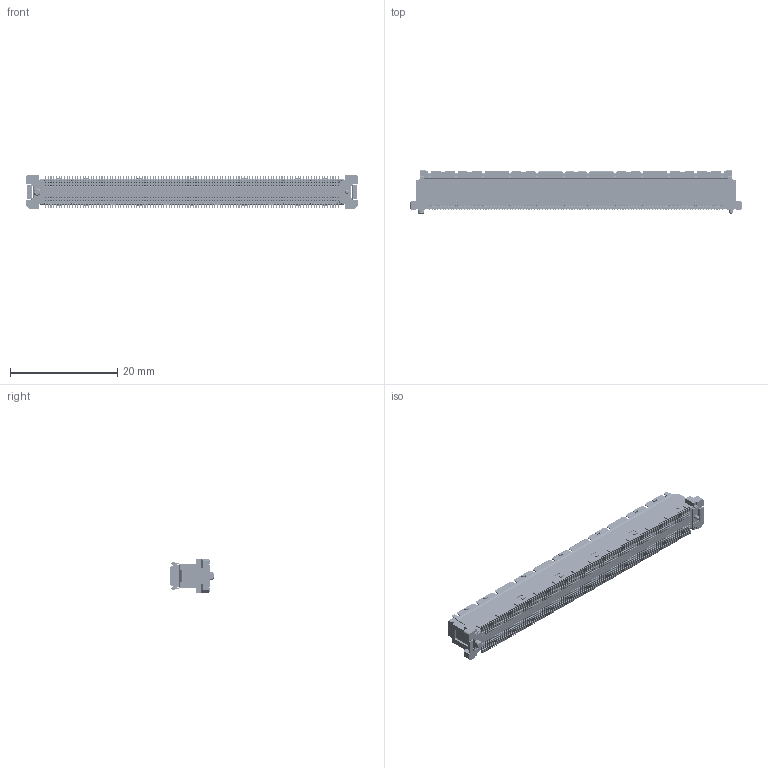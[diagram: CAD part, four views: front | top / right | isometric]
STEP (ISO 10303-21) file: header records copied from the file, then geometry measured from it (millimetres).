
FILE_DESCRIPTION (( 'STEP AP214' ), '1' );
FILE_NAME ('401-55101-5x_3D.STEP', '2018-03-26T09:53:22', ( '' ), ( '' ), 'SwSTEP 2.0', 'SolidWorks 2016', '' );
FILE_SCHEMA (( 'AUTOMOTIVE_DESIGN' ));
Length unit declared in the file: millimetre
Products named in the file (1): 401-55101-5x_3D
Bounding box: 61.8 x 8.05 x 6.2 mm (x, y, z)
Volume: 1442.6 mm3; surface area: 3270.6 mm2
Topology: 1 solids, 1 shells, 10893 faces, 32095 edges, 21355 vertices
Faces by surface type: plane 7077, cylinder 3811, cone 5
Entity records: 482081 total; most frequent: CARTESIAN_POINT 66002, ORIENTED_EDGE 64190, DIRECTION 60484, EDGE_CURVE 32095, LINE 24394, VECTOR 24394, VERTEX_POINT 21355, AXIS2_PLACEMENT_3D 18045
